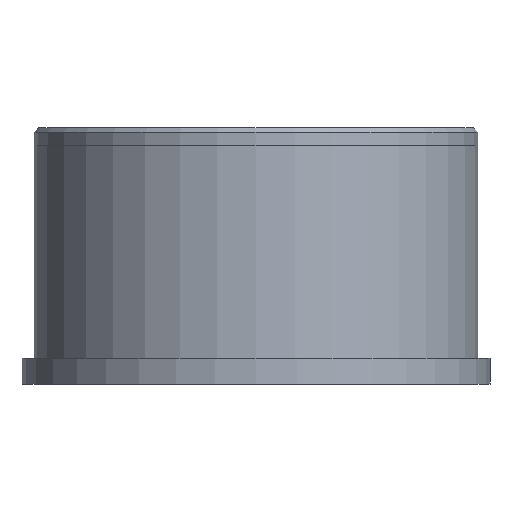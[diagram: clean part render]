
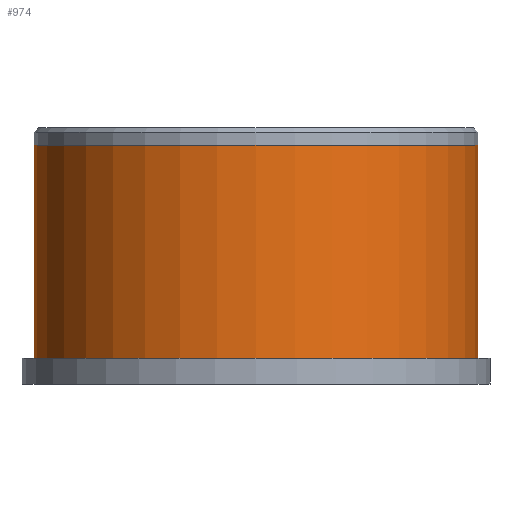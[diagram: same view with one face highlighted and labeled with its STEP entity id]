
A CAD part, front view. The second image highlights one B-rep face of the part: STEP entity #974.
In plain terms, the highlighted cylindrical face has radius 41.281 mm (diameter 82.563 mm), a full revolution.
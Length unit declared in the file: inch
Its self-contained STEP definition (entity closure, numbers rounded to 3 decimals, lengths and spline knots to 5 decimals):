
#216 = DIRECTION ( 'NONE',  ( -1., 0., 0. ) ) ;
#410 = VERTEX_POINT ( 'NONE', #2958 ) ;
#664 = DIRECTION ( 'NONE',  ( -1., 0., 0. ) ) ;
#888 = CIRCLE ( 'NONE', #3212, 1.62525 ) ;
#974 = ADVANCED_FACE ( 'NONE', ( #1601, #1169 ), #1485, .T. ) ;
#1003 = CARTESIAN_POINT ( 'NONE',  ( 0., 0., 0.187 ) ) ;
#1169 = FACE_OUTER_BOUND ( 'NONE', #2218, .T. ) ;
#1482 = VERTEX_POINT ( 'NONE', #1960 ) ;
#1485 = CYLINDRICAL_SURFACE ( 'NONE', #2996, 1.62525 ) ;
#1601 = FACE_OUTER_BOUND ( 'NONE', #2021, .T. ) ;
#1880 = EDGE_CURVE ( 'NONE', #1482, #1482, #888, .T. ) ;
#1896 = DIRECTION ( 'NONE',  ( 0., 0., -1. ) ) ;
#1960 = CARTESIAN_POINT ( 'NONE',  ( -1.62525, 0., 1.75 ) ) ;
#2021 = EDGE_LOOP ( 'NONE', ( #2609 ) ) ;
#2218 = EDGE_LOOP ( 'NONE', ( #2295 ) ) ;
#2235 = DIRECTION ( 'NONE',  ( 0., 0., -1. ) ) ;
#2295 = ORIENTED_EDGE ( 'NONE', *, *, #1880, .T. ) ;
#2460 = CARTESIAN_POINT ( 'NONE',  ( 0., 0., 0. ) ) ;
#2584 = CIRCLE ( 'NONE', #2936, 1.62525 ) ;
#2609 = ORIENTED_EDGE ( 'NONE', *, *, #2823, .F. ) ;
#2635 = CARTESIAN_POINT ( 'NONE',  ( 0., 0., 1.75 ) ) ;
#2695 = DIRECTION ( 'NONE',  ( 0., 0., -1. ) ) ;
#2823 = EDGE_CURVE ( 'NONE', #410, #410, #2584, .T. ) ;
#2872 = DIRECTION ( 'NONE',  ( -1., 0., 0. ) ) ;
#2936 = AXIS2_PLACEMENT_3D ( 'NONE', #1003, #2235, #216 ) ;
#2958 = CARTESIAN_POINT ( 'NONE',  ( -1.62525, 0., 0.187 ) ) ;
#2996 = AXIS2_PLACEMENT_3D ( 'NONE', #2460, #2695, #664 ) ;
#3212 = AXIS2_PLACEMENT_3D ( 'NONE', #2635, #1896, #2872 ) ;
